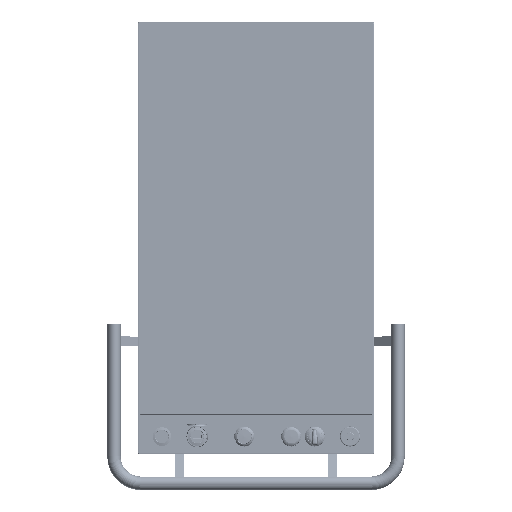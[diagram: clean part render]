
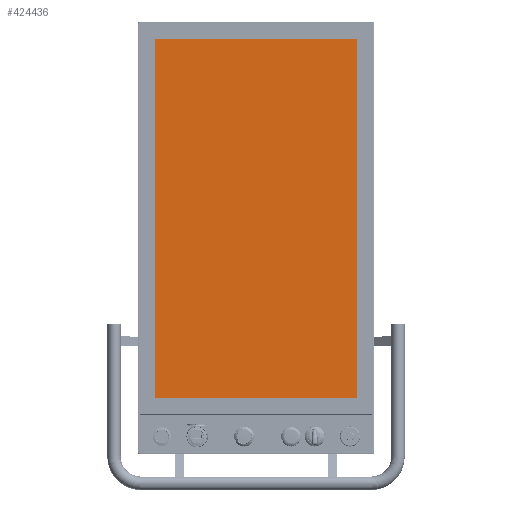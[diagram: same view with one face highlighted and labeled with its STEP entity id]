
A CAD part, top view. The second image highlights one B-rep face of the part: STEP entity #424436.
In plain terms, the highlighted planar face has unit normal (0, 0, 1) as drawn and (0, 1, 0) by its records, which use the part's own axes.
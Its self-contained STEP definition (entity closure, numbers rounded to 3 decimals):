
#4908 = CARTESIAN_POINT ( 'NONE',  ( -266.88, 2.7, -150.645 ) ) ;
#23865 = DIRECTION ( 'NONE',  ( 1., 0., 0. ) ) ;
#32741 = VECTOR ( 'NONE', #23865, 1000. ) ;
#61563 = CARTESIAN_POINT ( 'NONE',  ( 266.88, 2.7, 150.645 ) ) ;
#92326 = CARTESIAN_POINT ( 'NONE',  ( 266.88, 2.7, 150.645 ) ) ;
#113185 = CARTESIAN_POINT ( 'NONE',  ( -266.88, 2.7, -150.645 ) ) ;
#115104 = EDGE_LOOP ( 'NONE', ( #276819, #116865, #353351, #296668 ) ) ;
#116865 = ORIENTED_EDGE ( 'NONE', *, *, #445356, .T. ) ;
#120527 = CARTESIAN_POINT ( 'NONE',  ( -266.88, 2.7, 150.645 ) ) ;
#132881 = VERTEX_POINT ( 'NONE', #120527 ) ;
#133625 = DIRECTION ( 'NONE',  ( -1., 0., 0. ) ) ;
#137569 = VERTEX_POINT ( 'NONE', #61563 ) ;
#171221 = LINE ( 'NONE', #216141, #32741 ) ;
#208028 = DIRECTION ( 'NONE',  ( 0., 0., 1. ) ) ;
#208537 = CARTESIAN_POINT ( 'NONE',  ( 266.88, 2.7, -150.645 ) ) ;
#216141 = CARTESIAN_POINT ( 'NONE',  ( -266.88, 2.7, 150.645 ) ) ;
#223867 = LINE ( 'NONE', #92326, #460931 ) ;
#253398 = VERTEX_POINT ( 'NONE', #113185 ) ;
#276819 = ORIENTED_EDGE ( 'NONE', *, *, #479734, .T. ) ;
#281558 = VECTOR ( 'NONE', #133625, 1000. ) ;
#284435 = AXIS2_PLACEMENT_3D ( 'NONE', #357850, #285401, #208028 ) ;
#285401 = DIRECTION ( 'NONE',  ( 0., 1., 0. ) ) ;
#287846 = FACE_OUTER_BOUND ( 'NONE', #115104, .T. ) ;
#296668 = ORIENTED_EDGE ( 'NONE', *, *, #494201, .T. ) ;
#304591 = DIRECTION ( 'NONE',  ( 0., 0., 1. ) ) ;
#320253 = LINE ( 'NONE', #4908, #351684 ) ;
#321058 = LINE ( 'NONE', #471019, #281558 ) ;
#327829 = PLANE ( 'NONE',  #284435 ) ;
#349814 = VERTEX_POINT ( 'NONE', #208537 ) ;
#351684 = VECTOR ( 'NONE', #304591, 1000. ) ;
#353351 = ORIENTED_EDGE ( 'NONE', *, *, #433068, .T. ) ;
#357850 = CARTESIAN_POINT ( 'NONE',  ( 0., 2.7, 0. ) ) ;
#376164 = DIRECTION ( 'NONE',  ( 0., 0., -1. ) ) ;
#424436 = ADVANCED_FACE ( 'NONE', ( #287846 ), #327829, .T. ) ;
#433068 = EDGE_CURVE ( 'NONE', #132881, #137569, #171221, .T. ) ;
#445356 = EDGE_CURVE ( 'NONE', #253398, #132881, #320253, .T. ) ;
#460931 = VECTOR ( 'NONE', #376164, 1000. ) ;
#471019 = CARTESIAN_POINT ( 'NONE',  ( 266.88, 2.7, -150.645 ) ) ;
#479734 = EDGE_CURVE ( 'NONE', #349814, #253398, #321058, .T. ) ;
#494201 = EDGE_CURVE ( 'NONE', #137569, #349814, #223867, .T. ) ;
